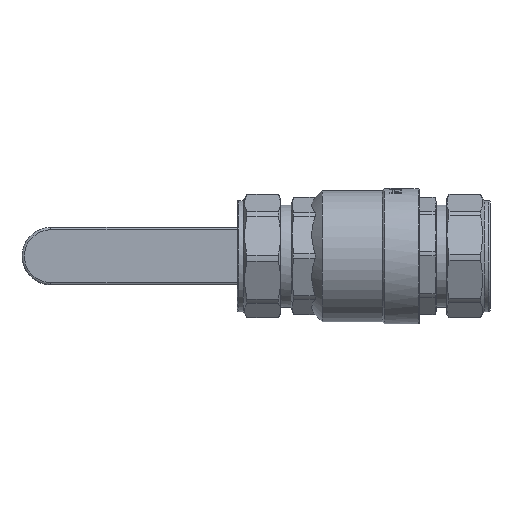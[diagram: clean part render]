
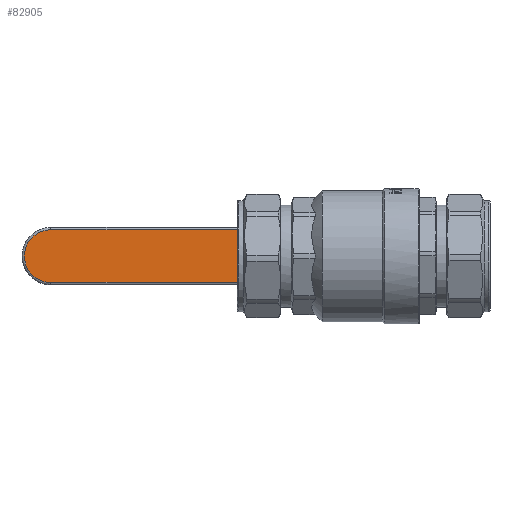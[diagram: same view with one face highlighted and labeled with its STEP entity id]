
A CAD part, front view. The second image highlights one B-rep face of the part: STEP entity #82905.
In plain terms, the highlighted planar face has unit normal (0, -1, 0).
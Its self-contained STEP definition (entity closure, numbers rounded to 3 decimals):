
#82837=CARTESIAN_POINT('',(-49.489,72.2,-11.0));
#82838=VERTEX_POINT('',#82837);
#82839=CARTESIAN_POINT('',(-49.489,72.2,11.0));
#82840=VERTEX_POINT('',#82839);
#82841=CARTESIAN_POINT('',(-49.489,72.2,-11.0));
#82842=DIRECTION('',(0.0,0.0,1.0));
#82843=VECTOR('',#82842,22.0);
#82844=LINE('',#82841,#82843);
#82845=EDGE_CURVE('',#82838,#82840,#82844,.T.);
#82874=CARTESIAN_POINT('',(-45.486,72.2,-23.5));
#82875=DIRECTION('',(0.0,1.0,0.0));
#82876=DIRECTION('',(0.0,0.0,-1.0));
#82877=AXIS2_PLACEMENT_3D('',#82874,#82875,#82876);
#82878=PLANE('',#82877);
#82879=ORIENTED_EDGE('',*,*,#82845,.T.);
#82880=CARTESIAN_POINT('',(-128.0,72.2,11.0));
#82881=VERTEX_POINT('',#82880);
#82882=CARTESIAN_POINT('',(-49.489,72.2,11.0));
#82883=DIRECTION('',(-1.0,0.0,0.0));
#82884=VECTOR('',#82883,78.511);
#82885=LINE('',#82882,#82884);
#82886=EDGE_CURVE('',#82840,#82881,#82885,.T.);
#82887=ORIENTED_EDGE('',*,*,#82886,.T.);
#82888=CARTESIAN_POINT('',(-128.0,72.2,-11.0));
#82889=VERTEX_POINT('',#82888);
#82890=CARTESIAN_POINT('',(-128.,72.2,0.));
#82891=DIRECTION('',(0.0,-1.0,0.0));
#82892=DIRECTION('',(0.0,0.0,1.0));
#82893=AXIS2_PLACEMENT_3D('',#82890,#82891,#82892);
#82894=CIRCLE('',#82893,11.0);
#82895=EDGE_CURVE('',#82881,#82889,#82894,.T.);
#82896=ORIENTED_EDGE('',*,*,#82895,.T.);
#82897=CARTESIAN_POINT('',(-128.0,72.2,-11.0));
#82898=DIRECTION('',(1.0,0.0,0.0));
#82899=VECTOR('',#82898,78.511);
#82900=LINE('',#82897,#82899);
#82901=EDGE_CURVE('',#82889,#82838,#82900,.T.);
#82902=ORIENTED_EDGE('',*,*,#82901,.T.);
#82903=EDGE_LOOP('',(#82879,#82887,#82896,#82902));
#82904=FACE_OUTER_BOUND('',#82903,.T.);
#82905=ADVANCED_FACE('',(#82904),#82878,.F.);
